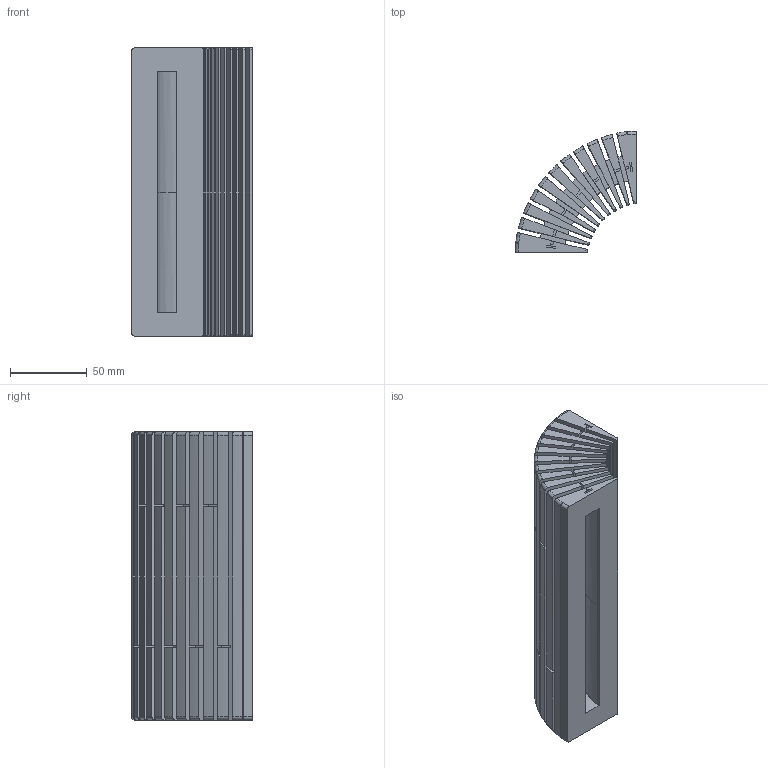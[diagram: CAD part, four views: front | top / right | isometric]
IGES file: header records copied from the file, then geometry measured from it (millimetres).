
Global section: file name: C:\Users\tprototype\Desktop\TeslaGen Project\TeslaGen-v1 CAD Package\CNC Parts\Bobbin-STL\CAD File\HV-Bobbin.igs; native system: HarmonyWare Translators; preprocessor: HarmonyWare IGES v1.7.11; date: 20161018.111350; units: millimetre
Bounding box: 78.65 x 78.65 x 187.44 mm (x, y, z)
Surface area: 203161.5 mm2 (no closed solid volume)
Topology: 0 solids, 0 shells, 292 faces, 3928 edges, 3928 vertices
Faces by surface type: bspline 292
